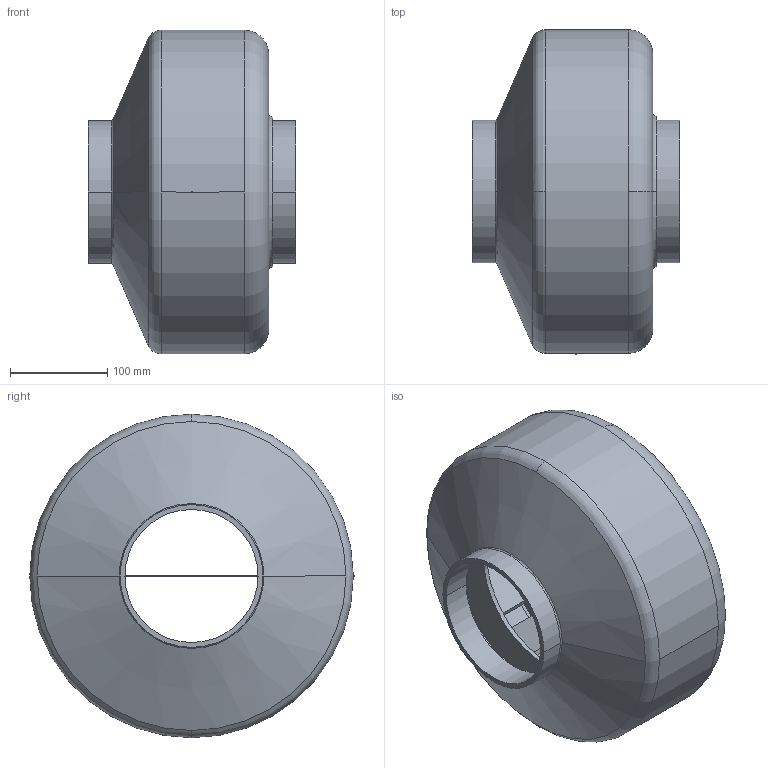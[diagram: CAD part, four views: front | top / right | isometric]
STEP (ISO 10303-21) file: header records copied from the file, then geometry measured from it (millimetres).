
FILE_DESCRIPTION(('STEP AP214'),'1');
FILE_NAME('5145880200.stp','2019-05-13T14:54:53',('TraceParts'),('TraceParts S.A.'),'Spatial InterOp 3D',' ',' ');
FILE_SCHEMA(('AUTOMOTIVE_DESIGN { 1 0 10303 214 1 1 1 1 }'));
Length unit declared in the file: millimetre
Products named in the file (1): 5145880200
Bounding box: 214 x 334 x 333 mm (x, y, z)
Volume: 2368555.2 mm3; surface area: 895760.8 mm2
Topology: 1 solids, 1 shells, 107 faces, 298 edges, 199 vertices
Faces by surface type: plane 59, cylinder 28, torus 16, cone 4
Entity records: 4709 total; most frequent: CARTESIAN_POINT 926, DIRECTION 615, ORIENTED_EDGE 596, EDGE_CURVE 298, AXIS2_PLACEMENT_3D 218, VERTEX_POINT 199, LINE 179, VECTOR 179
